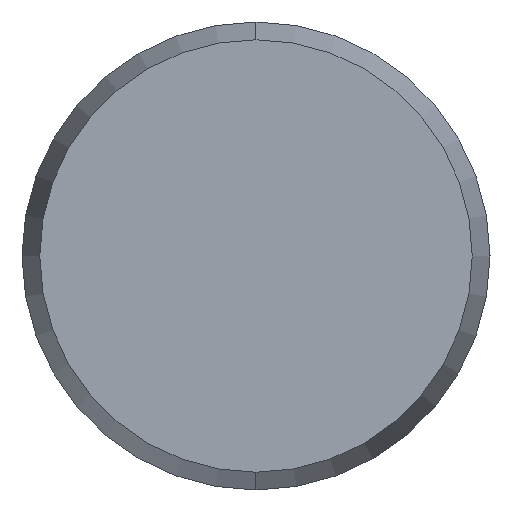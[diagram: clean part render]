
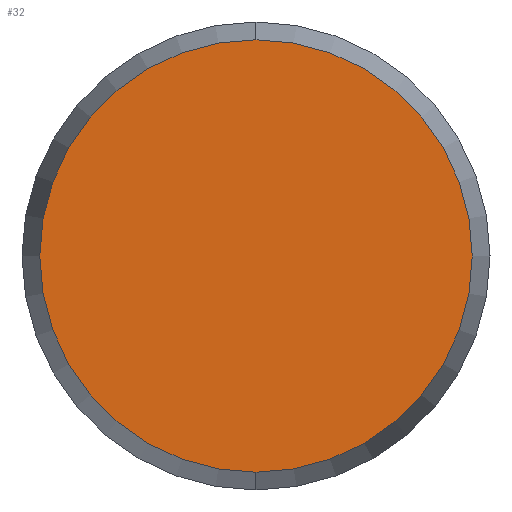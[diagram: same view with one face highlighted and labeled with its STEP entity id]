
A CAD part, left-side view. The second image highlights one B-rep face of the part: STEP entity #32.
In plain terms, the highlighted planar face has unit normal (-1, 0, 0).
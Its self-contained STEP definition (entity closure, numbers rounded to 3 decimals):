
#10 = EDGE_CURVE ( 'NONE', #11, #12, #69, .T. ) ;
#11 = VERTEX_POINT ( 'NONE', #64 ) ;
#12 = VERTEX_POINT ( 'NONE', #63 ) ;
#32 = ADVANCED_FACE ( 'NONE', ( #193 ), #192, .F. ) ;
#33 = EDGE_LOOP ( 'NONE', ( #34, #35 ) ) ;
#34 = ORIENTED_EDGE ( 'NONE', *, *, #10, .F. ) ;
#35 = ORIENTED_EDGE ( 'NONE', *, *, #58, .F. ) ;
#58 = EDGE_CURVE ( 'NONE', #12, #11, #240, .T. ) ;
#63 = CARTESIAN_POINT ( 'NONE',  ( -18., 0., -5.544 ) ) ;
#64 = CARTESIAN_POINT ( 'NONE',  ( -18., 0., 5.544 ) ) ;
#65 = DIRECTION ( 'NONE',  ( 0., 0., -1. ) ) ;
#66 = DIRECTION ( 'NONE',  ( 1., 0., 0. ) ) ;
#67 = CARTESIAN_POINT ( 'NONE',  ( -18., 0., 0. ) ) ;
#68 = AXIS2_PLACEMENT_3D ( 'NONE', #67, #66, #65 ) ;
#69 = CIRCLE ( 'NONE', #68, 5.544 ) ;
#192 = PLANE ( 'NONE',  #275 ) ;
#193 = FACE_OUTER_BOUND ( 'NONE', #33, .T. ) ;
#233 = DIRECTION ( 'NONE',  ( 0., 0., -1. ) ) ;
#234 = DIRECTION ( 'NONE',  ( 1., 0., 0. ) ) ;
#235 = CARTESIAN_POINT ( 'NONE',  ( -18., 0., 0. ) ) ;
#236 = AXIS2_PLACEMENT_3D ( 'NONE', #235, #234, #233 ) ;
#240 = CIRCLE ( 'NONE', #236, 5.544 ) ;
#272 = DIRECTION ( 'NONE',  ( 0., 0., -1. ) ) ;
#273 = DIRECTION ( 'NONE',  ( 1., 0., 0. ) ) ;
#274 = CARTESIAN_POINT ( 'NONE',  ( -18., 0., 0. ) ) ;
#275 = AXIS2_PLACEMENT_3D ( 'NONE', #274, #273, #272 ) ;
